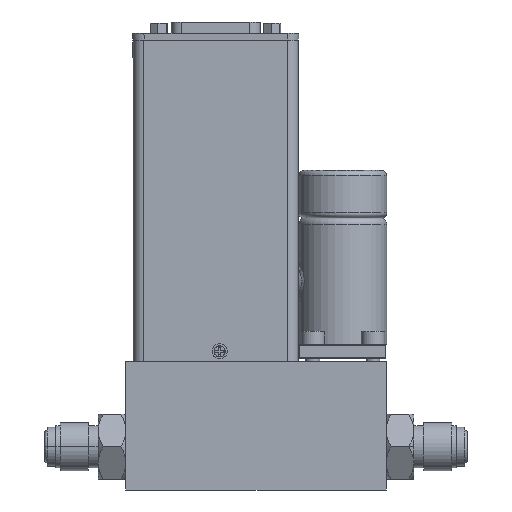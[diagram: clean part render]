
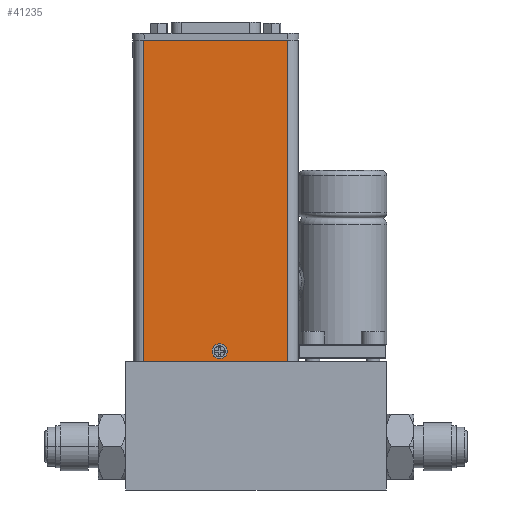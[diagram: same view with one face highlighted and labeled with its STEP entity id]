
A CAD part, front view. The second image highlights one B-rep face of the part: STEP entity #41235.
In plain terms, the highlighted planar face has unit normal (0, -1, 0).
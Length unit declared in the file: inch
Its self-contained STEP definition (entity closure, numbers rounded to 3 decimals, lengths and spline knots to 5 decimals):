
#72 = CARTESIAN_POINT ( 'NONE',  ( 1.07761, 0.008, 1.54012 ) ) ;
#237 = CIRCLE ( 'NONE', #12052, 0.06299 ) ;
#289 = DIRECTION ( 'NONE',  ( 0., -1., 0. ) ) ;
#473 = VERTEX_POINT ( 'NONE', #19463 ) ;
#1127 = EDGE_CURVE ( 'NONE', #473, #11727, #3106, .T. ) ;
#2423 = DIRECTION ( 'NONE',  ( 0., 0., 1. ) ) ;
#3106 = LINE ( 'NONE', #28338, #19194 ) ;
#3917 = EDGE_CURVE ( 'NONE', #11727, #8641, #14254, .T. ) ;
#5226 = EDGE_CURVE ( 'NONE', #18593, #12096, #237, .T. ) ;
#6192 = DIRECTION ( 'NONE',  ( 0., 0., 1. ) ) ;
#7747 = CARTESIAN_POINT ( 'NONE',  ( 1.85836, 0.008, 1.48511 ) ) ;
#8641 = VERTEX_POINT ( 'NONE', #23148 ) ;
#9031 = VECTOR ( 'NONE', #21193, 39.37008 ) ;
#9303 = EDGE_LOOP ( 'NONE', ( #18090, #37727, #17871, #18049 ) ) ;
#9310 = VECTOR ( 'NONE', #22202, 39.37008 ) ;
#10284 = DIRECTION ( 'NONE',  ( 1., 0., 0. ) ) ;
#11329 = LINE ( 'NONE', #11555, #9310 ) ;
#11555 = CARTESIAN_POINT ( 'NONE',  ( 0.20236, 0.008, 1.48511 ) ) ;
#11727 = VERTEX_POINT ( 'NONE', #32072 ) ;
#11874 = VECTOR ( 'NONE', #40647, 39.37008 ) ;
#12052 = AXIS2_PLACEMENT_3D ( 'NONE', #37176, #41100, #2423 ) ;
#12096 = VERTEX_POINT ( 'NONE', #72 ) ;
#14254 = LINE ( 'NONE', #7747, #9031 ) ;
#15433 = CARTESIAN_POINT ( 'NONE',  ( 0.20236, 0.008, 5.19964 ) ) ;
#16616 = AXIS2_PLACEMENT_3D ( 'NONE', #27714, #45538, #6192 ) ;
#17871 = ORIENTED_EDGE ( 'NONE', *, *, #38421, .T. ) ;
#18049 = ORIENTED_EDGE ( 'NONE', *, *, #18725, .T. ) ;
#18090 = ORIENTED_EDGE ( 'NONE', *, *, #1127, .T. ) ;
#18593 = VERTEX_POINT ( 'NONE', #20615 ) ;
#18725 = EDGE_CURVE ( 'NONE', #28247, #473, #11329, .T. ) ;
#18797 = ORIENTED_EDGE ( 'NONE', *, *, #5226, .T. ) ;
#19194 = VECTOR ( 'NONE', #10284, 39.37008 ) ;
#19463 = CARTESIAN_POINT ( 'NONE',  ( 0.20236, 0.008, 1.48511 ) ) ;
#20615 = CARTESIAN_POINT ( 'NONE',  ( 1.07761, 0.008, 1.6661 ) ) ;
#21193 = DIRECTION ( 'NONE',  ( 0., 0., 1. ) ) ;
#21604 = FACE_OUTER_BOUND ( 'NONE', #9303, .T. ) ;
#22202 = DIRECTION ( 'NONE',  ( 0., 0., -1. ) ) ;
#23148 = CARTESIAN_POINT ( 'NONE',  ( 1.85836, 0.008, 5.19964 ) ) ;
#25712 = ORIENTED_EDGE ( 'NONE', *, *, #41900, .T. ) ;
#26530 = LINE ( 'NONE', #29765, #11874 ) ;
#27714 = CARTESIAN_POINT ( 'NONE',  ( 1.07761, 0.008, 1.60311 ) ) ;
#28247 = VERTEX_POINT ( 'NONE', #15433 ) ;
#28338 = CARTESIAN_POINT ( 'NONE',  ( 1.03036, 0.008, 1.48511 ) ) ;
#29765 = CARTESIAN_POINT ( 'NONE',  ( 1.03036, 0.008, 5.19964 ) ) ;
#31401 = CIRCLE ( 'NONE', #16616, 0.06299 ) ;
#32010 = DIRECTION ( 'NONE',  ( 0., 0., -1. ) ) ;
#32072 = CARTESIAN_POINT ( 'NONE',  ( 1.85836, 0.008, 1.48511 ) ) ;
#35199 = EDGE_LOOP ( 'NONE', ( #18797, #25712 ) ) ;
#35722 = PLANE ( 'NONE',  #40123 ) ;
#37176 = CARTESIAN_POINT ( 'NONE',  ( 1.07761, 0.008, 1.60311 ) ) ;
#37727 = ORIENTED_EDGE ( 'NONE', *, *, #3917, .T. ) ;
#38421 = EDGE_CURVE ( 'NONE', #8641, #28247, #26530, .T. ) ;
#39430 = CARTESIAN_POINT ( 'NONE',  ( 1.03036, 0.008, 1.48511 ) ) ;
#40123 = AXIS2_PLACEMENT_3D ( 'NONE', #39430, #289, #32010 ) ;
#40647 = DIRECTION ( 'NONE',  ( -1., 0., 0. ) ) ;
#41100 = DIRECTION ( 'NONE',  ( 0., 1., 0. ) ) ;
#41235 = ADVANCED_FACE ( 'NONE', ( #45679, #21604 ), #35722, .T. ) ;
#41900 = EDGE_CURVE ( 'NONE', #12096, #18593, #31401, .T. ) ;
#45538 = DIRECTION ( 'NONE',  ( 0., 1., 0. ) ) ;
#45679 = FACE_BOUND ( 'NONE', #35199, .T. ) ;
